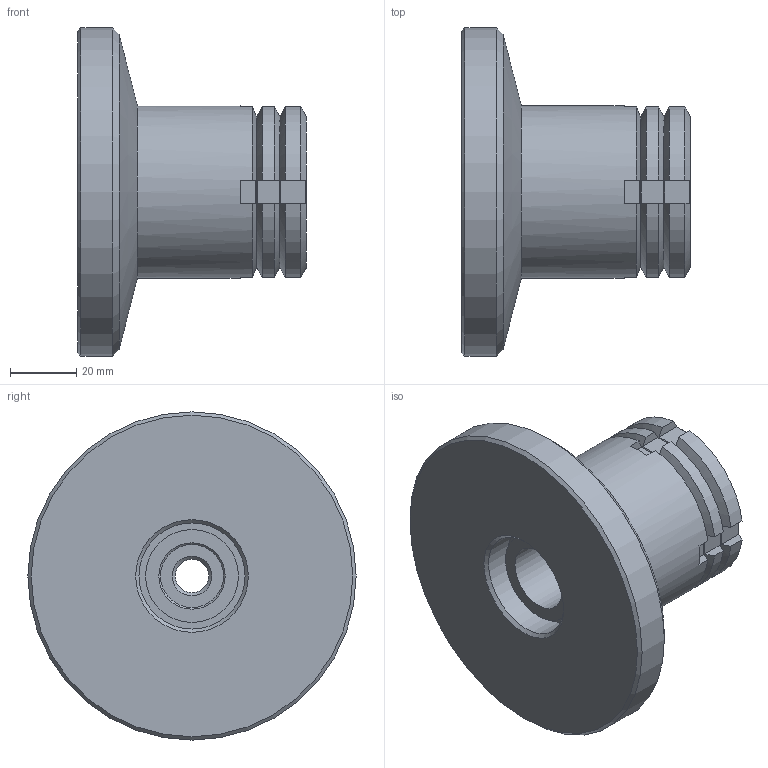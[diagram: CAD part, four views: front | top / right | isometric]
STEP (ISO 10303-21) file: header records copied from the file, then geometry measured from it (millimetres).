
FILE_DESCRIPTION( ( 'STEP AP203' ), '1' );
FILE_NAME( 'C:/Temp/Ganter_Step_05_03_2020/data/3_2/gn360/gn360_ni/Stainless Steel-Levelling set GN 360-99-M12-80-B-NI (0-0).stp', '2020-03-13T05:42:10', ( 'License CC BY-ND 4.0' ), ( 'CADENAS' ), ' ', 'PARTsolutions', ' ' );
FILE_SCHEMA( ( 'CONFIG_CONTROL_DESIGN' ) );
Length unit declared in the file: millimetre
Products named in the file (5): Stainless Steel-Levelling set GN 360-99-M12-80-B-NI (0-0); _Stainless Steel-Levelling set GN 360-99-M12-80-B-NI (0-0)-1; _Stainless Steel-Levelling set GN 360-99-M12-80-B-NI (0-0)-2; _Edelstahl-Ausgleich-Stellfuss GN 360-99-M12-80-B-NI (0-0)-4; _Stainless Steel-Levelling set GN 360-99-M12-80-B-NI (0-0)-3
Assembly tree (4 placements, depth 2):
  Stainless Steel-Levelling set GN 360-99-M12-80-B-NI (0-0)
    _Stainless Steel-Levelling set GN 360-99-M12-80-B-NI (0-0)-1
    _Stainless Steel-Levelling set GN 360-99-M12-80-B-NI (0-0)-2
    _Edelstahl-Ausgleich-Stellfuss GN 360-99-M12-80-B-NI (0-0)-4
    _Stainless Steel-Levelling set GN 360-99-M12-80-B-NI (0-0)-3
Bounding box: 69 x 99 x 99 mm (x, y, z)
Volume: 203950 mm3; surface area: 50092.3 mm2
Topology: 4 solids, 4 shells, 96 faces, 232 edges, 149 vertices
Faces by surface type: plane 53, cylinder 22, cone 18, sphere 2, torus 1
Full cylindrical faces by diameter (mm): 10.106 x1, 19 x1, 20 x1, 22.5 x1, 27 x1, 28 x1, 32 x1, 34 x1, 34.376 x2, 36 x1, 36.5 x1, 52 x1, 99 x1
Entity records: 2928 total; most frequent: CARTESIAN_POINT 755, DIRECTION 400, ORIENTED_EDGE 378, EDGE_CURVE 189, AXIS2_PLACEMENT_3D 170, EDGE_LOOP 144, VERTEX_POINT 141, FACE_OUTER_BOUND 113
